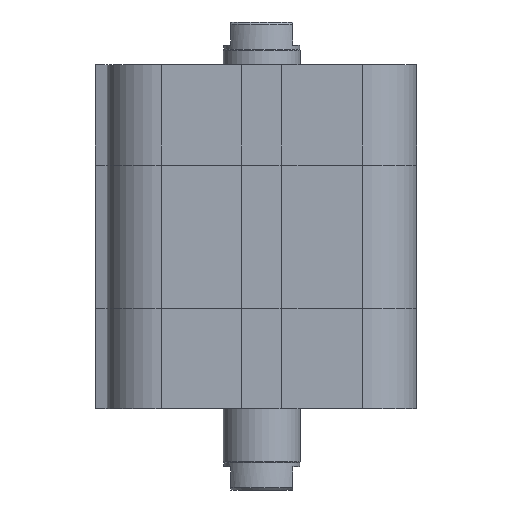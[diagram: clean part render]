
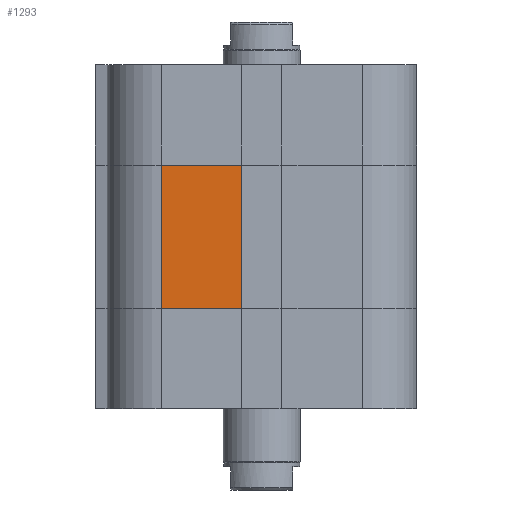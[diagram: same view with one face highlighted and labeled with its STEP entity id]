
A CAD part, left-side view. The second image highlights one B-rep face of the part: STEP entity #1293.
In plain terms, the highlighted planar face has unit normal (-1, 0, 0).
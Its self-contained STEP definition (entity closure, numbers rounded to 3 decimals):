
#1204=CARTESIAN_POINT('',(-20.,13.,13.));
#1205=VERTEX_POINT('',#1204);
#1213=CARTESIAN_POINT('',(-20.,13.,31.5));
#1214=VERTEX_POINT('',#1213);
#1215=CARTESIAN_POINT('',(-20.,13.,13.));
#1216=DIRECTION('',(0.0,0.0,1.0));
#1217=VECTOR('',#1216,18.5);
#1218=LINE('',#1215,#1217);
#1219=EDGE_CURVE('',#1205,#1214,#1218,.T.);
#1263=CARTESIAN_POINT('',(-20.0,2.6,0.0));
#1264=DIRECTION('',(-1.0,0.0,0.0));
#1265=DIRECTION('',(0.0,0.0,1.0));
#1266=AXIS2_PLACEMENT_3D('',#1263,#1264,#1265);
#1267=PLANE('',#1266);
#1268=CARTESIAN_POINT('',(-20.0,2.6,13.));
#1269=VERTEX_POINT('',#1268);
#1270=CARTESIAN_POINT('',(-20.,13.,13.));
#1271=DIRECTION('',(0.0,-1.0,0.0));
#1272=VECTOR('',#1271,10.4);
#1273=LINE('',#1270,#1272);
#1274=EDGE_CURVE('',#1205,#1269,#1273,.T.);
#1275=ORIENTED_EDGE('',*,*,#1274,.T.);
#1276=CARTESIAN_POINT('',(-20.0,2.6,31.5));
#1277=VERTEX_POINT('',#1276);
#1278=CARTESIAN_POINT('',(-20.0,2.6,13.));
#1279=DIRECTION('',(0.0,0.0,1.0));
#1280=VECTOR('',#1279,18.5);
#1281=LINE('',#1278,#1280);
#1282=EDGE_CURVE('',#1269,#1277,#1281,.T.);
#1283=ORIENTED_EDGE('',*,*,#1282,.T.);
#1284=CARTESIAN_POINT('',(-20.,13.,31.5));
#1285=DIRECTION('',(0.0,-1.0,0.0));
#1286=VECTOR('',#1285,10.4);
#1287=LINE('',#1284,#1286);
#1288=EDGE_CURVE('',#1214,#1277,#1287,.T.);
#1289=ORIENTED_EDGE('',*,*,#1288,.F.);
#1290=ORIENTED_EDGE('',*,*,#1219,.F.);
#1291=EDGE_LOOP('',(#1275,#1283,#1289,#1290));
#1292=FACE_OUTER_BOUND('',#1291,.T.);
#1293=ADVANCED_FACE('',(#1292),#1267,.T.);
